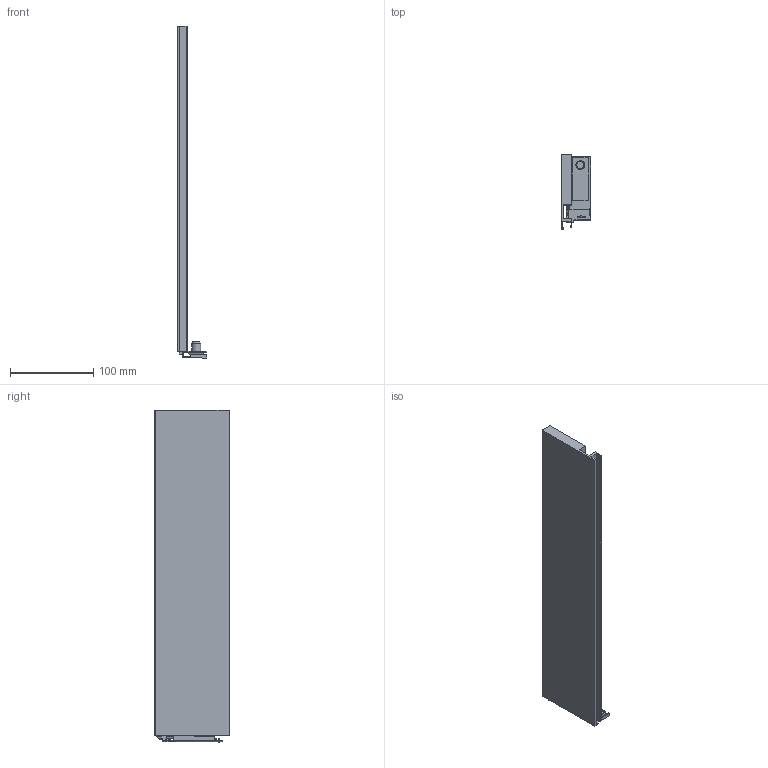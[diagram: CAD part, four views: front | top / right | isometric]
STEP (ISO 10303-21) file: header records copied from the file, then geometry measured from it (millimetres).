
FILE_DESCRIPTION (( 'STEP AP214' ), '1' );
FILE_NAME ('Vionaro_Alu-Zarge_H89_NL400_LI.STEP', '2014-08-18T09:58:07', ( '' ), ( '' ), 'SwSTEP 2.0', 'SolidWorks 2013', '' );
FILE_SCHEMA (( 'AUTOMOTIVE_DESIGN' ));
Length unit declared in the file: millimetre
Products named in the file (1): Vionaro_Alu-Zarge_H89_NL400_LI
Bounding box: 35.6 x 89 x 397.9 mm (x, y, z)
Volume: 356029.4 mm3; surface area: 103774 mm2
Topology: 1 solids, 1 shells, 101 faces, 272 edges, 178 vertices
Faces by surface type: plane 81, cylinder 16, cone 4
Entity records: 3162 total; most frequent: CARTESIAN_POINT 558, ORIENTED_EDGE 544, DIRECTION 512, EDGE_CURVE 272, LINE 232, VECTOR 232, VERTEX_POINT 178, AXIS2_PLACEMENT_3D 140
